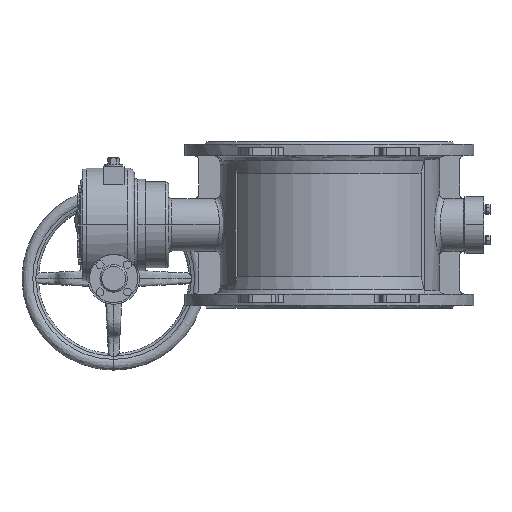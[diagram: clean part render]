
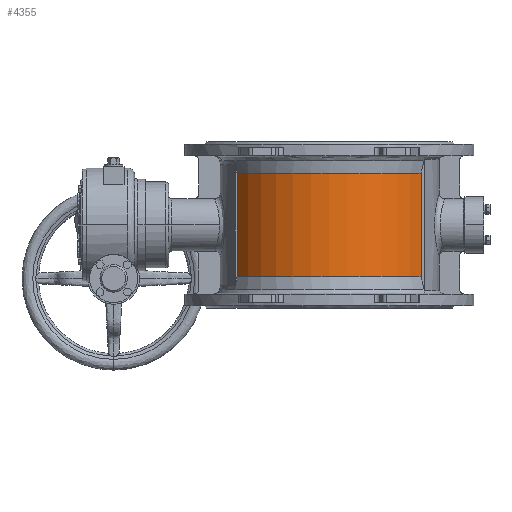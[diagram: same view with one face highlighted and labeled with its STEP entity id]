
A CAD part, front view. The second image highlights one B-rep face of the part: STEP entity #4355.
In plain terms, the highlighted cylindrical face has radius 187 mm (diameter 374 mm), a partial arc.
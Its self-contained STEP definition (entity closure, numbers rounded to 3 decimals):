
#4185 = EDGE_CURVE ( 'NONE', #18677, #13396, #7371, .T. ) ;
#4189 = EDGE_CURVE ( 'NONE', #18677, #13057, #8429, .T. ) ;
#4259 = EDGE_CURVE ( 'NONE', #18665, #13396, #25780, .T. ) ;
#4266 = EDGE_CURVE ( 'NONE', #18665, #13057, #10024, .T. ) ;
#4355 = ADVANCED_FACE ( 'NONE', ( #11745 ), #11973, .T. ) ;
#7183 = DIRECTION ( 'NONE',  ( 1., 0., 0. ) ) ;
#7189 = DIRECTION ( 'NONE',  ( 0., 0., 1. ) ) ;
#7192 = CARTESIAN_POINT ( 'NONE',  ( 0., 0., 90.5 ) ) ;
#7353 = DIRECTION ( 'NONE',  ( 0., 0., -1. ) ) ;
#7371 = LINE ( 'NONE', #7390, #8431 ) ;
#7390 = CARTESIAN_POINT ( 'NONE',  ( -160.477, -96., 0. ) ) ;
#8420 = AXIS2_PLACEMENT_3D ( 'NONE', #7192, #7189, #7183 ) ;
#8429 = CIRCLE ( 'NONE', #8420, 187. ) ;
#8431 = VECTOR ( 'NONE', #7353, 1000. ) ;
#10013 = DIRECTION ( 'NONE',  ( 0., 0., 1. ) ) ;
#10024 = LINE ( 'NONE', #10054, #25764 ) ;
#10054 = CARTESIAN_POINT ( 'NONE',  ( 160.477, -96., 120.5 ) ) ;
#10099 = DIRECTION ( 'NONE',  ( -1., 0., 0. ) ) ;
#10100 = DIRECTION ( 'NONE',  ( 0., 0., -1. ) ) ;
#10101 = CARTESIAN_POINT ( 'NONE',  ( 0., 0., -90.5 ) ) ;
#11721 = DIRECTION ( 'NONE',  ( 0., 0., 1. ) ) ;
#11736 = CARTESIAN_POINT ( 'NONE',  ( 0., 0., 0. ) ) ;
#11745 = FACE_OUTER_BOUND ( 'NONE', #16575, .T. ) ;
#11973 = CYLINDRICAL_SURFACE ( 'NONE', #25307, 187. ) ;
#12074 = DIRECTION ( 'NONE',  ( 1., 0., 0. ) ) ;
#13057 = VERTEX_POINT ( 'NONE', #29141 ) ;
#13396 = VERTEX_POINT ( 'NONE', #29271 ) ;
#16163 = ORIENTED_EDGE ( 'NONE', *, *, #4259, .F. ) ;
#16164 = ORIENTED_EDGE ( 'NONE', *, *, #4185, .T. ) ;
#16165 = ORIENTED_EDGE ( 'NONE', *, *, #4189, .F. ) ;
#16170 = ORIENTED_EDGE ( 'NONE', *, *, #4266, .T. ) ;
#16575 = EDGE_LOOP ( 'NONE', ( #16170, #16165, #16164, #16163 ) ) ;
#18665 = VERTEX_POINT ( 'NONE', #30125 ) ;
#18677 = VERTEX_POINT ( 'NONE', #30164 ) ;
#25307 = AXIS2_PLACEMENT_3D ( 'NONE', #11736, #11721, #12074 ) ;
#25764 = VECTOR ( 'NONE', #10013, 1000. ) ;
#25780 = CIRCLE ( 'NONE', #25849, 187. ) ;
#25849 = AXIS2_PLACEMENT_3D ( 'NONE', #10101, #10100, #10099 ) ;
#29141 = CARTESIAN_POINT ( 'NONE',  ( 160.477, -96., 90.5 ) ) ;
#29271 = CARTESIAN_POINT ( 'NONE',  ( -160.477, -96., -90.5 ) ) ;
#30125 = CARTESIAN_POINT ( 'NONE',  ( 160.477, -96., -90.5 ) ) ;
#30164 = CARTESIAN_POINT ( 'NONE',  ( -160.477, -96., 90.5 ) ) ;
